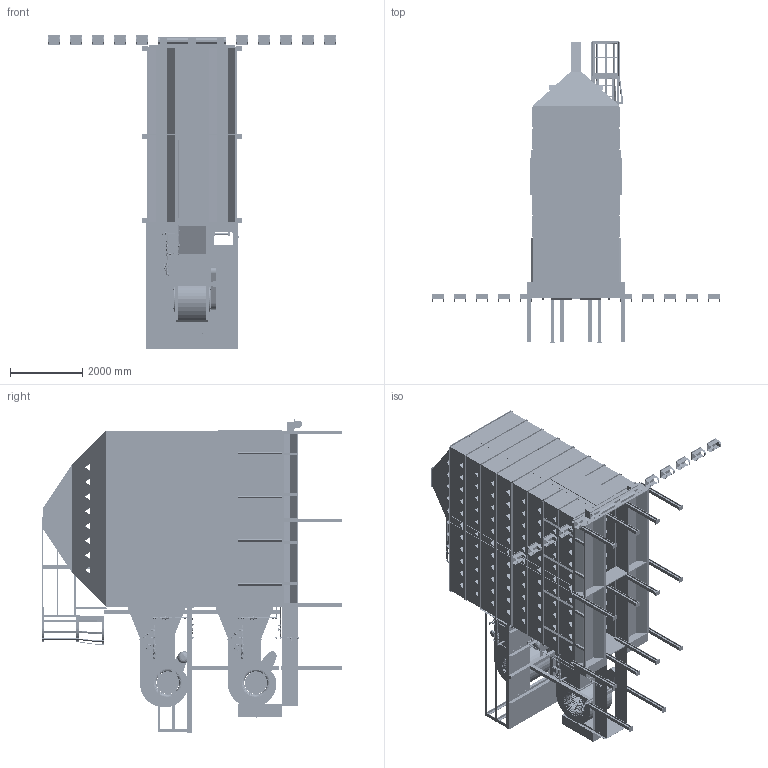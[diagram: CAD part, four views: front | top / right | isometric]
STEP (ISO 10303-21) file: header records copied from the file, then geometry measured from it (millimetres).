
FILE_DESCRIPTION(/* description */ ('PLAN AND ELEVATION VIEW FOR D16106 WITH ROOF & GRAVITY FILL'),/* implementation_level */ '2;1');
FILE_NAME(/* name */ 'C:\Engineering\Designs\Sales\Dryer\Workspaces\D16 All\D16106GF.stp',/* time_stamp */ '2025-01-06T16:44:52-06:00',/* author */ ('max.fleming'),/* organization */ (''),/* preprocessor_version */ 'ST-DEVELOPER v18.1',/* originating_system */ 'Autodesk Inventor 2022',/* authorisation */ '');
FILE_SCHEMA (('AUTOMOTIVE_DESIGN { 1 0 10303 214 3 1 1 }'));
Products named in the file (28): D16106GF; 16FT FRAME; 8FT LHRH FRAME; 16FT CATWALK; 16FT Grav Assy; 16FT ROOF GF; 8FTRoof GF LHRH; Tongue; 16FT BODY TIER; LH Body; RH Body; LH Body_MIR6; RH Body_MIR6; Outside Splice; Standard Size End Plenum Panels; Ladder 2' section; Trans & Blower; Belt Shield; Screen Guard; LP Fuel; Stiffeners; Platform; Platform Support 1-T; 1 Tier Vertical Support; 6'' CROSS AUGER; Leg Kit-02; LP Inlet; Liquid Propane Pipe
Assembly tree (87 placements, depth 3):
  D16106GF
    16FT FRAME
      8FT LHRH FRAME  x2
    16FT CATWALK
    16FT Grav Assy
    16FT ROOF GF
      8FTRoof GF LHRH  x2
    Tongue
    16FT BODY TIER  x8
      LH Body
      RH Body
      LH Body_MIR6
      RH Body_MIR6
      Outside Splice
    Leg Kit-02  x12
    Standard Size End Plenum Panels  x13
    Trans & Blower  x2
    Belt Shield  x2
    Screen Guard  x4
    LP Fuel  x2
    Stiffeners  x16
    Platform
    Platform Support 1-T
    1 Tier Vertical Support  x6
    LP Inlet
    Liquid Propane Pipe  x4
  Ladder 2' section
  6'' CROSS AUGER
Bounding box: 8007.35 x 8339.54 x 8695.06 mm (x, y, z)
Volume: 47101173105 mm3; surface area: 659863448.3 mm2
Topology: 423 solids, 581 shells, 35619 faces, 92323 edges, 58867 vertices
Faces by surface type: plane 16140, cylinder 10543, bspline 3771, cone 3392, torus 1591, sphere 182
Full cylindrical faces by diameter (mm): 1 x10, 1.651 x6, 1.753 x6, 1.778 x12, 2.019 x4, 2.108 x2, 2.286 x24, 2.489 x2, 2.54 x4, 3.091 x288, 3.175 x5, 3.251 x20, 3.306 x288, 3.522 x2, 3.658 x28, 3.8 x16, 4 x384, 4.039 x20, 4.166 x256, 4.191 x4, 4.229 x2, 4.267 x2, 4.369 x8, 4.445 x8, 4.701 x592, 4.762 x16, 4.851 x8, 4.928 x32, 5.283 x2, 5.527 x20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
Entity records: 735613 total; most frequent: CARTESIAN_POINT 335296, ORIENTED_EDGE 83916, DIRECTION 74876, EDGE_CURVE 42098, VERTEX_POINT 26860, AXIS2_PLACEMENT_3D 26123, LINE 22630, VECTOR 22630
